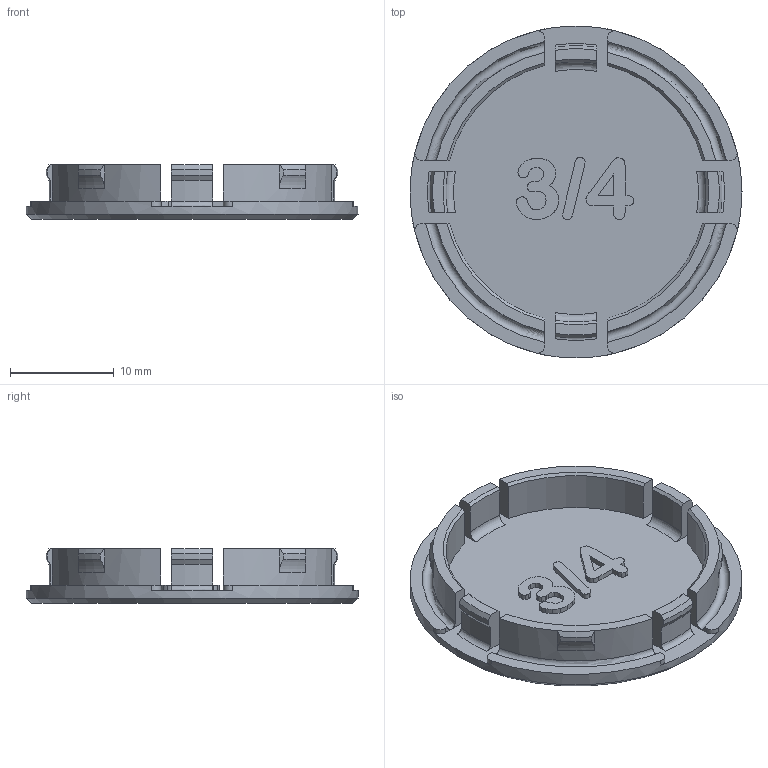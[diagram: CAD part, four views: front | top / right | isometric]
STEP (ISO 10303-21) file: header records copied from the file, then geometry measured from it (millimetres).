
FILE_DESCRIPTION(/* description */ (''),/* implementation_level */ '2;1');
FILE_NAME(/* name */ 'C:/Users/brosner/Documents/Personal/3D Printers/My Design STLS/My Thingiverse Uploads/knockouts/3s4_NEMA_Knockout.step',/* time_stamp */ '2018-02-20T23:33:49-07:00',/* author */ (''),/* organization */ (''),/* preprocessor_version */ 'ST-DEVELOPER v16.13',/* originating_system */ 'Autodesk Translation Framework v6.5.0.72',/* authorisation */ '');
FILE_SCHEMA (('AUTOMOTIVE_DESIGN { 1 0 10303 214 3 1 1 }'));
Length unit declared in the file: millimetre
Products named in the file (1): 3/4 CONDUIT PLUG
Bounding box: 32 x 32 x 5.25 mm (x, y, z)
Volume: 1441.1 mm3; surface area: 2452.8 mm2
Topology: 1 solids, 1 shells, 218 faces, 608 edges, 400 vertices
Faces by surface type: bspline 77, plane 71, cylinder 33, cone 21, torus 16
Full cylindrical faces by diameter (mm): 32 x1
Entity records: 7947 total; most frequent: CARTESIAN_POINT 2984, ORIENTED_EDGE 1216, DIRECTION 754, EDGE_CURVE 608, VERTEX_POINT 400, AXIS2_PLACEMENT_3D 254, LINE 246, VECTOR 246
